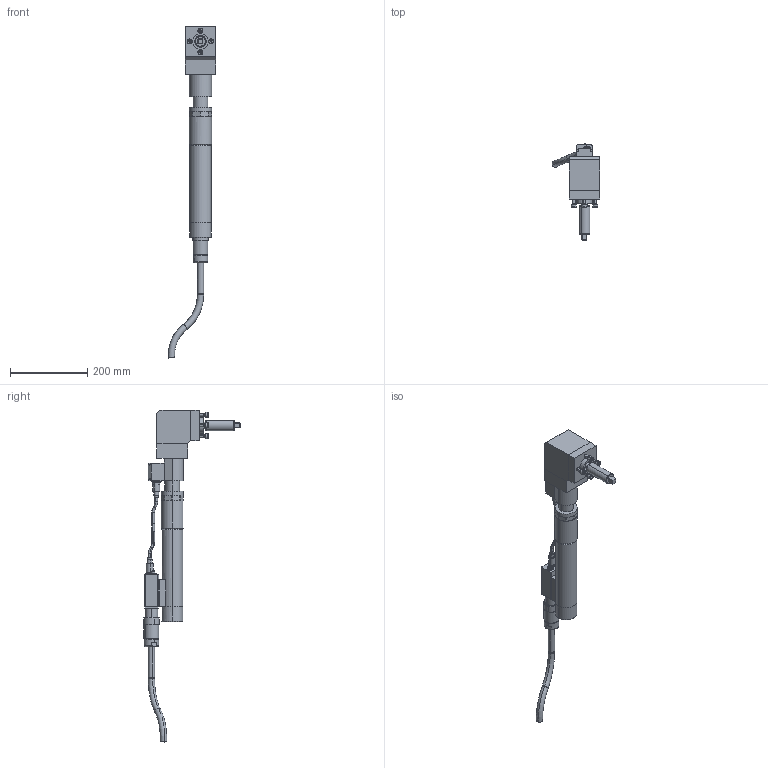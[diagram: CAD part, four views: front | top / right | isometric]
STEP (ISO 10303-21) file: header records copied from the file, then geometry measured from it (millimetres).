
FILE_DESCRIPTION(('CATIA V5 STEP Exchange'),'2;1');
FILE_NAME('C:\pro\7920501_ECR205_DR63_AW225_AllCATPart.stp','2008-11-10T09:32:48+00:00',('none'),('none'),'CATIA Version 5 Release 17 (IN-10)','CATIA V5 STEP AP203','none');
FILE_SCHEMA(('CONFIG_CONTROL_DESIGN'));
Length unit declared in the file: millimetre
Products named in the file (1): 7920501_ECR205_DR63_AW225_AllCATPart
Bounding box: 123.82 x 250.48 x 861.66 mm (x, y, z)
Volume: 2509132.3 mm3; surface area: 273581.1 mm2
Topology: 17 solids, 17 shells, 453 faces, 1016 edges, 632 vertices
Faces by surface type: plane 195, cylinder 156, cone 62, torus 40
Entity records: 11909 total; most frequent: CARTESIAN_POINT 2399, ORIENTED_EDGE 2008, DIRECTION 1664, EDGE_CURVE 1004, AXIS2_PLACEMENT_3D 807, VERTEX_POINT 632, VECTOR 506, LINE 506
